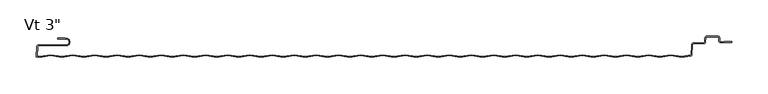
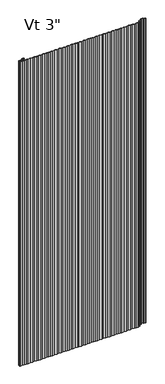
"""IFC4 building model written with IfcOpenShell, lengths in millimetres: plate geometry."""

from ifc_helpers import new_model, si_unit, point, frame, origin, place, context, project, spatial, polyline, circle_curve, ellipse_curve, trimmed, source, transform, mapped, element, save
from ifc_brep_helpers import plane_surface, cylinder_surface, revolved_surface, extruded_surface, advanced_brep


def plate_d0f07226(model_context):
    return source(origin(), model_context, "Body", "AdvancedBrep", [
        advanced_brep(
        [(-480.4252049, -50.8, 2400.0), (-480.4252049, -52.3875, 2400.0), (-469.1142674, -52.3875, 2400.0), (-469.1142674, -60.325, 2400.0), (-507.2975721, -60.325, 2400.0), (-509.6755586, -62.581625, 2400.0), (-510.41832, -76.7543553, 2400.0), (-506.0646686, -77.4509395, 2400.0), (-490.8246686, -75.0125395, 2400.0), (-475.5846686, -77.4509395, 2400.0), (-460.3446686, -75.0125395, 2400.0), (-445.1046686, -77.4509395, 2400.0), (-429.8646686, -75.0125395, 2400.0), (-414.6246686, -77.4509395, 2400.0), (-399.3846686, -75.0125395, 2400.0), (-384.1446686, -77.4509395, 2400.0), (-368.9046686, -75.0125395, 2400.0), (-353.6646686, -77.4509395, 2400.0), (-338.4246686, -75.0125395, 2400.0), (-323.1846686, -77.4509395, 2400.0), (-307.9446686, -75.0125395, 2400.0), (-292.7046686, -77.4509395, 2400.0), (-277.4646686, -75.0125395, 2400.0), (-262.2246686, -77.4509395, 2400.0), (-246.9846686, -75.0125395, 2400.0), (-231.7446686, -77.4509395, 2400.0), (-216.5046686, -75.0125395, 2400.0), (-201.2646686, -77.4509395, 2400.0), (-186.0246686, -75.0125395, 2400.0), (-170.7846686, -77.4509395, 2400.0), (-155.5446686, -75.0125395, 2400.0), (-140.3046686, -77.4509395, 2400.0), (-125.0646686, -75.0125395, 2400.0), (-109.8246686, -77.4509395, 2400.0), (-94.5846686, -75.0125395, 2400.0), (-79.3446686, -77.4509395, 2400.0), (-64.1046686, -75.0125395, 2400.0), (-48.8646686, -77.4509395, 2400.0), (-33.6246686, -75.0125395, 2400.0), (-18.3846686, -77.4509395, 2400.0), (-3.1446686, -75.0125395, 2400.0), (12.0953314, -77.4509395, 2400.0), (27.3353314, -75.0125395, 2400.0), (42.5753314, -77.4509395, 2400.0), (57.8153314, -75.0125395, 2400.0), (73.0553314, -77.4509395, 2400.0), (88.2953314, -75.0125395, 2400.0), (103.5353314, -77.4509395, 2400.0), (118.7753314, -75.0125395, 2400.0), (134.0153314, -77.4509395, 2400.0), (149.2553314, -75.0125395, 2400.0), (164.4953314, -77.4509395, 2400.0), (179.7353314, -75.0125395, 2400.0), (194.9753314, -77.4509395, 2400.0), (210.2153314, -75.0125395, 2400.0), (225.4553314, -77.4509395, 2400.0), (240.6953314, -75.0125395, 2400.0), (255.9353314, -77.4509395, 2400.0), (271.1753314, -75.0125395, 2400.0), (286.4153314, -77.4509395, 2400.0), (301.6553314, -75.0125395, 2400.0), (316.8953314, -77.4509395, 2400.0), (332.1353314, -75.0125395, 2400.0), (347.3753314, -77.4509395, 2400.0), (362.6153314, -75.0125395, 2400.0), (377.6527639, -77.4185287, 2400.0), (390.0944828, -75.4278537, 2400.0), (391.4289973, -73.943375, 2400.0), (392.1470603, -60.2419167, 2400.0), (393.7323847, -58.7375, 2400.0), (407.8886911, -58.7375, 2400.0), (410.2666776, -56.480875, 2400.0), (410.5687539, -50.7169167, 2400.0), (412.1540783, -49.2125, 2400.0), (427.0294826, -49.2125, 2400.0), (428.6169826, -50.8, 2400.0), (428.6169826, -54.9671875, 2400.0), (430.9982326, -57.3484375, 2400.0), (445.4898532, -57.3484375, 2400.0), (445.4898532, -55.5546875, 2400.0), (435.7607326, -55.5546875, 2400.0), (435.7607326, -56.3484375, 2400.0), (430.9982326, -56.3484375, 2400.0), (429.6169826, -54.9671875, 2400.0), (429.6169826, -50.8, 2400.0), (427.0294826, -48.2125, 2400.0), (412.1540783, -48.2125, 2400.0), (409.5701244, -50.6645807, 2400.0), (409.2680481, -56.428539, 2400.0), (407.8886911, -57.7375, 2400.0), (393.7323847, -57.7375, 2400.0), (391.1484307, -60.1895807, 2400.0), (390.4303677, -73.891039, 2400.0), (389.9364923, -74.440413, 2400.0), (377.6527639, -76.4058096, 2400.0), (362.6153314, -73.9998204, 2400.0), (347.3753314, -76.4382204, 2400.0), (332.1353314, -73.9998204, 2400.0), (316.8953314, -76.4382204, 2400.0), (301.6553314, -73.9998204, 2400.0), (286.4153314, -76.4382204, 2400.0), (271.1753314, -73.9998204, 2400.0), (255.9353314, -76.4382204, 2400.0), (240.6953314, -73.9998204, 2400.0), (225.4553314, -76.4382204, 2400.0), (210.2153314, -73.9998204, 2400.0), (194.9753314, -76.4382204, 2400.0), (179.7353314, -73.9998204, 2400.0), (164.4953314, -76.4382204, 2400.0), (149.2553314, -73.9998204, 2400.0), (134.0153314, -76.4382204, 2400.0), (118.7753314, -73.9998204, 2400.0), (103.5353314, -76.4382204, 2400.0), (88.2953314, -73.9998204, 2400.0), (73.0553314, -76.4382204, 2400.0), (57.8153314, -73.9998204, 2400.0), (42.5753314, -76.4382204, 2400.0), (27.3353314, -73.9998204, 2400.0), (12.0953314, -76.4382204, 2400.0), (-3.1446686, -73.9998204, 2400.0), (-18.3846686, -76.4382204, 2400.0), (-33.6246686, -73.9998204, 2400.0), (-48.8646686, -76.4382204, 2400.0), (-64.1046686, -73.9998204, 2400.0), (-79.3446686, -76.4382204, 2400.0), (-94.5846686, -73.9998204, 2400.0), (-109.8246686, -76.4382204, 2400.0), (-125.0646686, -73.9998204, 2400.0), (-140.3046686, -76.4382204, 2400.0), (-155.5446686, -73.9998204, 2400.0), (-170.7846686, -76.4382204, 2400.0), (-186.0246686, -73.9998204, 2400.0), (-201.2646686, -76.4382204, 2400.0), (-216.5046686, -73.9998204, 2400.0), (-231.7446686, -76.4382204, 2400.0), (-246.9846686, -73.9998204, 2400.0), (-262.2246686, -76.4382204, 2400.0), (-277.4646686, -73.9998204, 2400.0), (-292.7046686, -76.4382204, 2400.0), (-307.9446686, -73.9998204, 2400.0), (-323.1846686, -76.4382204, 2400.0), (-338.4246686, -73.9998204, 2400.0), (-353.6646686, -76.4382204, 2400.0), (-368.9046686, -73.9998204, 2400.0), (-384.1446686, -76.4382204, 2400.0), (-399.3846686, -73.9998204, 2400.0), (-414.6246686, -76.4382204, 2400.0), (-429.8646686, -73.9998204, 2400.0), (-445.1046686, -76.4382204, 2400.0), (-460.3446686, -73.9998204, 2400.0), (-475.5846686, -76.4382204, 2400.0), (-490.8246686, -73.9998204, 2400.0), (-506.0646686, -76.4382204, 2400.0), (-509.3726415, -75.9089447, 2400.0), (-508.6769291, -62.633961, 2400.0), (-507.2975721, -61.325, 2400.0), (-469.1142674, -61.325, 2400.0), (-469.1142674, -51.3875, 2400.0), (-470.7017674, -51.59375, 2400.0), (-470.7017674, -50.8, 2400.0), (-480.4252049, -50.8, 0.0), (-470.7017674, -50.8, 0.0), (-470.7017674, -51.59375, 0.0), (-469.1142674, -51.3875, 0.0), (-469.1142674, -61.325, 0.0), (-507.2975721, -61.325, 0.0), (-508.6769291, -62.633961, 0.0), (-509.3726415, -75.9089447, 0.0), (-506.0646686, -76.4382204, 0.0), (-490.8246686, -73.9998204, 0.0), (-475.5846686, -76.4382204, 0.0), (-460.3446686, -73.9998204, 0.0), (-445.1046686, -76.4382204, 0.0), (-429.8646686, -73.9998204, 0.0), (-414.6246686, -76.4382204, 0.0), (-399.3846686, -73.9998204, 0.0), (-384.1446686, -76.4382204, 0.0), (-368.9046686, -73.9998204, 0.0), (-353.6646686, -76.4382204, 0.0), (-338.4246686, -73.9998204, 0.0), (-323.1846686, -76.4382204, 0.0), (-307.9446686, -73.9998204, 0.0), (-292.7046686, -76.4382204, 0.0), (-277.4646686, -73.9998204, 0.0), (-262.2246686, -76.4382204, 0.0), (-246.9846686, -73.9998204, 0.0), (-231.7446686, -76.4382204, 0.0), (-216.5046686, -73.9998204, 0.0), (-201.2646686, -76.4382204, 0.0), (-186.0246686, -73.9998204, 0.0), (-170.7846686, -76.4382204, 0.0), (-155.5446686, -73.9998204, 0.0), (-140.3046686, -76.4382204, 0.0), (-125.0646686, -73.9998204, 0.0), (-109.8246686, -76.4382204, 0.0), (-94.5846686, -73.9998204, 0.0), (-79.3446686, -76.4382204, 0.0), (-64.1046686, -73.9998204, 0.0), (-48.8646686, -76.4382204, 0.0), (-33.6246686, -73.9998204, 0.0), (-18.3846686, -76.4382204, 0.0), (-3.1446686, -73.9998204, 0.0), (12.0953314, -76.4382204, 0.0), (27.3353314, -73.9998204, 0.0), (42.5753314, -76.4382204, 0.0), (57.8153314, -73.9998204, 0.0), (73.0553314, -76.4382204, 0.0), (88.2953314, -73.9998204, 0.0), (103.5353314, -76.4382204, 0.0), (118.7753314, -73.9998204, 0.0), (134.0153314, -76.4382204, 0.0), (149.2553314, -73.9998204, 0.0), (164.4953314, -76.4382204, 0.0), (179.7353314, -73.9998204, 0.0), (194.9753314, -76.4382204, 0.0), (210.2153314, -73.9998204, 0.0), (225.4553314, -76.4382204, 0.0), (240.6953314, -73.9998204, 0.0), (255.9353314, -76.4382204, 0.0), (271.1753314, -73.9998204, 0.0), (286.4153314, -76.4382204, 0.0), (301.6553314, -73.9998204, 0.0), (316.8953314, -76.4382204, 0.0), (332.1353314, -73.9998204, 0.0), (347.3753314, -76.4382204, 0.0), (362.6153314, -73.9998204, 0.0), (377.6527639, -76.4058096, 0.0), (389.9364923, -74.440413, 0.0), (390.4303677, -73.891039, 0.0), (391.1484307, -60.1895807, 0.0), (393.7323847, -57.7375, 0.0), (407.8886911, -57.7375, 0.0), (409.2680481, -56.428539, 0.0), (409.5701244, -50.6645807, 0.0), (412.1540783, -48.2125, 0.0), (427.0294826, -48.2125, 0.0), (429.6169826, -50.8, 0.0), (429.6169826, -54.9671875, 0.0), (430.9982326, -56.3484375, 0.0), (435.7607326, -56.3484375, 0.0), (435.7607326, -55.5546875, 0.0), (445.4898532, -55.5546875, 0.0), (445.4898532, -57.3484375, 0.0), (430.9982326, -57.3484375, 0.0), (428.6169826, -54.9671875, 0.0), (428.6169826, -50.8, 0.0), (427.0294826, -49.2125, 0.0), (412.1540783, -49.2125, 0.0), (410.5687539, -50.7169167, 0.0), (410.2666776, -56.480875, 0.0), (407.8886911, -58.7375, 0.0), (393.7323847, -58.7375, 0.0), (392.1470603, -60.2419167, 0.0), (391.4289973, -73.943375, 0.0), (390.0944828, -75.4278537, 0.0), (377.6527639, -77.4185287, 0.0), (362.6153314, -75.0125395, 0.0), (347.3753314, -77.4509395, 0.0), (332.1353314, -75.0125395, 0.0), (316.8953314, -77.4509395, 0.0), (301.6553314, -75.0125395, 0.0), (286.4153314, -77.4509395, 0.0), (271.1753314, -75.0125395, 0.0), (255.9353314, -77.4509395, 0.0), (240.6953314, -75.0125395, 0.0), (225.4553314, -77.4509395, 0.0), (210.2153314, -75.0125395, 0.0), (194.9753314, -77.4509395, 0.0), (179.7353314, -75.0125395, 0.0), (164.4953314, -77.4509395, 0.0), (149.2553314, -75.0125395, 0.0), (134.0153314, -77.4509395, 0.0), (118.7753314, -75.0125395, 0.0), (103.5353314, -77.4509395, 0.0), (88.2953314, -75.0125395, 0.0), (73.0553314, -77.4509395, 0.0), (57.8153314, -75.0125395, 0.0), (42.5753314, -77.4509395, 0.0), (27.3353314, -75.0125395, 0.0), (12.0953314, -77.4509395, 0.0), (-3.1446686, -75.0125395, 0.0), (-18.3846686, -77.4509395, 0.0), (-33.6246686, -75.0125395, 0.0), (-48.8646686, -77.4509395, 0.0), (-64.1046686, -75.0125395, 0.0), (-79.3446686, -77.4509395, 0.0), (-94.5846686, -75.0125395, 0.0), (-109.8246686, -77.4509395, 0.0), (-125.0646686, -75.0125395, 0.0), (-140.3046686, -77.4509395, 0.0), (-155.5446686, -75.0125395, 0.0), (-170.7846686, -77.4509395, 0.0), (-186.0246686, -75.0125395, 0.0), (-201.2646686, -77.4509395, 0.0), (-216.5046686, -75.0125395, 0.0), (-231.7446686, -77.4509395, 0.0), (-246.9846686, -75.0125395, 0.0), (-262.2246686, -77.4509395, 0.0), (-277.4646686, -75.0125395, 0.0), (-292.7046686, -77.4509395, 0.0), (-307.9446686, -75.0125395, 0.0), (-323.1846686, -77.4509395, 0.0), (-338.4246686, -75.0125395, 0.0), (-353.6646686, -77.4509395, 0.0), (-368.9046686, -75.0125395, 0.0), (-384.1446686, -77.4509395, 0.0), (-399.3846686, -75.0125395, 0.0), (-414.6246686, -77.4509395, 0.0), (-429.8646686, -75.0125395, 0.0), (-445.1046686, -77.4509395, 0.0), (-460.3446686, -75.0125395, 0.0), (-475.5846686, -77.4509395, 0.0), (-490.8246686, -75.0125395, 0.0), (-506.0646686, -77.4509395, 0.0), (-510.41832, -76.7543553, 0.0), (-509.6755586, -62.581625, 0.0), (-507.2975721, -60.325, 0.0), (-469.1142674, -60.325, 0.0), (-469.1142674, -52.3875, 0.0), (-480.4252049, -52.3875, 0.0)],
        [
            (0, 1, circle_curve(frame((-480.4252049, -51.59375, 2400.0), z_axis=(0.0, 0.0, 1.0), x_axis=(1.0, 0.0, 0.0)), 0.79375)),
            (1, 2),
            (2, 3, circle_curve(frame((-469.1142674, -56.35625, 2400.0), z_axis=(0.0, 0.0, -1.0), x_axis=(1.0, 0.0, 0.0)), 3.96875)),
            (3, 4),
            (4, 5, circle_curve(frame((-507.2975721, -62.70625, 2400.0), z_axis=(0.0, 0.0, 1.0), x_axis=(1.0, 0.0, 0.0)), 2.38125)),
            (5, 6),
            (6, 7),
            (7, 8),
            (8, 9),
            (9, 10),
            (10, 11),
            (11, 12),
            (12, 13),
            (13, 14),
            (14, 15),
            (15, 16),
            (16, 17),
            (17, 18),
            (18, 19),
            (19, 20),
            (20, 21),
            (21, 22),
            (22, 23),
            (23, 24),
            (24, 25),
            (25, 26),
            (26, 27),
            (27, 28),
            (28, 29),
            (29, 30),
            (30, 31),
            (31, 32),
            (32, 33),
            (33, 34),
            (34, 35),
            (35, 36),
            (36, 37),
            (37, 38),
            (38, 39),
            (39, 40),
            (40, 41),
            (41, 42),
            (42, 43),
            (43, 44),
            (44, 45),
            (45, 46),
            (46, 47),
            (47, 48),
            (48, 49),
            (49, 50),
            (50, 51),
            (51, 52),
            (52, 53),
            (53, 54),
            (54, 55),
            (55, 56),
            (56, 57),
            (57, 58),
            (58, 59),
            (59, 60),
            (60, 61),
            (61, 62),
            (62, 63),
            (63, 64),
            (64, 65),
            (65, 66),
            (66, 67, circle_curve(frame((389.8436729, -73.8602917, 2400.0), z_axis=(0.0, 0.0, 1.0), x_axis=(1.0, 0.0, 0.0)), 1.5875)),
            (67, 68),
            (68, 69, circle_curve(frame((393.7323847, -60.325, 2400.0), z_axis=(0.0, 0.0, -1.0), x_axis=(1.0, 0.0, 0.0)), 1.5875)),
            (69, 70),
            (70, 71, circle_curve(frame((407.8886911, -56.35625, 2400.0), z_axis=(0.0, 0.0, 1.0), x_axis=(1.0, 0.0, 0.0)), 2.38125)),
            (71, 72),
            (72, 73, circle_curve(frame((412.1540783, -50.8, 2400.0), z_axis=(0.0, 0.0, -1.0), x_axis=(1.0, 0.0, 0.0)), 1.5875)),
            (73, 74),
            (74, 75, circle_curve(frame((427.0294826, -50.8, 2400.0), z_axis=(0.0, 0.0, -1.0), x_axis=(1.0, 0.0, 0.0)), 1.5875)),
            (75, 76),
            (76, 77, circle_curve(frame((430.9982326, -54.9671875, 2400.0), z_axis=(0.0, 0.0, 1.0), x_axis=(1.0, 0.0, 0.0)), 2.38125)),
            (77, 78),
            (78, 79, ellipse_curve(frame((445.4898532, -56.4515625, 2400.0), z_axis=(0.0, 0.0, 1.0), x_axis=(0.0, 1.0, 0.0)), 0.896875, 0.7852275)),
            (79, 80),
            (80, 81),
            (81, 82),
            (82, 83, circle_curve(frame((430.9982326, -54.9671875, 2400.0), z_axis=(0.0, 0.0, -1.0), x_axis=(1.0, 0.0, 0.0)), 1.38125)),
            (83, 84),
            (84, 85, circle_curve(frame((427.0294826, -50.8, 2400.0), z_axis=(0.0, 0.0, 1.0), x_axis=(1.0, 0.0, 0.0)), 2.5875)),
            (85, 86),
            (86, 87, circle_curve(frame((412.1540783, -50.8, 2400.0), z_axis=(0.0, 0.0, 1.0), x_axis=(1.0, 0.0, 0.0)), 2.5875)),
            (87, 88),
            (88, 89, circle_curve(frame((407.8886911, -56.35625, 2400.0), z_axis=(0.0, 0.0, -1.0), x_axis=(1.0, 0.0, 0.0)), 1.38125)),
            (89, 90),
            (90, 91, circle_curve(frame((393.7323847, -60.325, 2400.0), z_axis=(0.0, 0.0, 1.0), x_axis=(1.0, 0.0, 0.0)), 2.5875)),
            (91, 92),
            (92, 93, circle_curve(frame((389.8436729, -73.8602917, 2400.0), z_axis=(0.0, 0.0, -1.0), x_axis=(1.0, 0.0, 0.0)), 0.5875)),
            (93, 94),
            (94, 95),
            (95, 96),
            (96, 97),
            (97, 98),
            (98, 99),
            (99, 100),
            (100, 101),
            (101, 102),
            (102, 103),
            (103, 104),
            (104, 105),
            (105, 106),
            (106, 107),
            (107, 108),
            (108, 109),
            (109, 110),
            (110, 111),
            (111, 112),
            (112, 113),
            (113, 114),
            (114, 115),
            (115, 116),
            (116, 117),
            (117, 118),
            (118, 119),
            (119, 120),
            (120, 121),
            (121, 122),
            (122, 123),
            (123, 124),
            (124, 125),
            (125, 126),
            (126, 127),
            (127, 128),
            (128, 129),
            (129, 130),
            (130, 131),
            (131, 132),
            (132, 133),
            (133, 134),
            (134, 135),
            (135, 136),
            (136, 137),
            (137, 138),
            (138, 139),
            (139, 140),
            (140, 141),
            (141, 142),
            (142, 143),
            (143, 144),
            (144, 145),
            (145, 146),
            (146, 147),
            (147, 148),
            (148, 149),
            (149, 150),
            (150, 151),
            (151, 152),
            (152, 153),
            (153, 154),
            (154, 155, circle_curve(frame((-507.2975721, -62.70625, 2400.0), z_axis=(0.0, 0.0, -1.0), x_axis=(1.0, 0.0, 0.0)), 1.38125)),
            (155, 156),
            (156, 157, circle_curve(frame((-469.1142674, -56.35625, 2400.0), z_axis=(0.0, 0.0, 1.0), x_axis=(1.0, 0.0, 0.0)), 4.96875)),
            (157, 158),
            (158, 159),
            (159, 0),
            (160, 161),
            (161, 162),
            (162, 163),
            (163, 164, circle_curve(frame((-469.1142674, -56.35625, 0.0), z_axis=(0.0, 0.0, -1.0), x_axis=(1.0, 0.0, 0.0)), 4.96875)),
            (164, 165),
            (165, 166, circle_curve(frame((-507.2975721, -62.70625, 0.0), z_axis=(0.0, 0.0, 1.0), x_axis=(1.0, 0.0, 0.0)), 1.38125)),
            (166, 167),
            (167, 168),
            (168, 169),
            (169, 170),
            (170, 171),
            (171, 172),
            (172, 173),
            (173, 174),
            (174, 175),
            (175, 176),
            (176, 177),
            (177, 178),
            (178, 179),
            (179, 180),
            (180, 181),
            (181, 182),
            (182, 183),
            (183, 184),
            (184, 185),
            (185, 186),
            (186, 187),
            (187, 188),
            (188, 189),
            (189, 190),
            (190, 191),
            (191, 192),
            (192, 193),
            (193, 194),
            (194, 195),
            (195, 196),
            (196, 197),
            (197, 198),
            (198, 199),
            (199, 200),
            (200, 201),
            (201, 202),
            (202, 203),
            (203, 204),
            (204, 205),
            (205, 206),
            (206, 207),
            (207, 208),
            (208, 209),
            (209, 210),
            (210, 211),
            (211, 212),
            (212, 213),
            (213, 214),
            (214, 215),
            (215, 216),
            (216, 217),
            (217, 218),
            (218, 219),
            (219, 220),
            (220, 221),
            (221, 222),
            (222, 223),
            (223, 224),
            (224, 225),
            (225, 226),
            (226, 227),
            (227, 228, circle_curve(frame((389.8436729, -73.8602917, 0.0), z_axis=(0.0, 0.0, 1.0), x_axis=(1.0, 0.0, 0.0)), 0.5875)),
            (228, 229),
            (229, 230, circle_curve(frame((393.7323847, -60.325, 0.0), z_axis=(0.0, 0.0, -1.0), x_axis=(1.0, 0.0, 0.0)), 2.5875)),
            (230, 231),
            (231, 232, circle_curve(frame((407.8886911, -56.35625, 0.0), z_axis=(0.0, 0.0, 1.0), x_axis=(1.0, 0.0, 0.0)), 1.38125)),
            (232, 233),
            (233, 234, circle_curve(frame((412.1540783, -50.8, 0.0), z_axis=(0.0, 0.0, -1.0), x_axis=(1.0, 0.0, 0.0)), 2.5875)),
            (234, 235),
            (235, 236, circle_curve(frame((427.0294826, -50.8, 0.0), z_axis=(0.0, 0.0, -1.0), x_axis=(1.0, 0.0, 0.0)), 2.5875)),
            (236, 237),
            (237, 238, circle_curve(frame((430.9982326, -54.9671875, 0.0), z_axis=(0.0, 0.0, 1.0), x_axis=(1.0, 0.0, 0.0)), 1.38125)),
            (238, 239),
            (239, 240),
            (240, 241),
            (241, 242, ellipse_curve(frame((445.4898532, -56.4515625, 0.0), z_axis=(0.0, 0.0, -1.0), x_axis=(0.0, 1.0, 0.0)), 0.896875, 0.7852275)),
            (242, 243),
            (243, 244, circle_curve(frame((430.9982326, -54.9671875, 0.0), z_axis=(0.0, 0.0, -1.0), x_axis=(1.0, 0.0, 0.0)), 2.38125)),
            (244, 245),
            (245, 246, circle_curve(frame((427.0294826, -50.8, 0.0), z_axis=(0.0, 0.0, 1.0), x_axis=(1.0, 0.0, 0.0)), 1.5875)),
            (246, 247),
            (247, 248, circle_curve(frame((412.1540783, -50.8, 0.0), z_axis=(0.0, 0.0, 1.0), x_axis=(1.0, 0.0, 0.0)), 1.5875)),
            (248, 249),
            (249, 250, circle_curve(frame((407.8886911, -56.35625, 0.0), z_axis=(0.0, 0.0, -1.0), x_axis=(1.0, 0.0, 0.0)), 2.38125)),
            (250, 251),
            (251, 252, circle_curve(frame((393.7323847, -60.325, 0.0), z_axis=(0.0, 0.0, 1.0), x_axis=(1.0, 0.0, 0.0)), 1.5875)),
            (252, 253),
            (253, 254, circle_curve(frame((389.8436729, -73.8602917, 0.0), z_axis=(0.0, 0.0, -1.0), x_axis=(1.0, 0.0, 0.0)), 1.5875)),
            (254, 255),
            (255, 256),
            (256, 257),
            (257, 258),
            (258, 259),
            (259, 260),
            (260, 261),
            (261, 262),
            (262, 263),
            (263, 264),
            (264, 265),
            (265, 266),
            (266, 267),
            (267, 268),
            (268, 269),
            (269, 270),
            (270, 271),
            (271, 272),
            (272, 273),
            (273, 274),
            (274, 275),
            (275, 276),
            (276, 277),
            (277, 278),
            (278, 279),
            (279, 280),
            (280, 281),
            (281, 282),
            (282, 283),
            (283, 284),
            (284, 285),
            (285, 286),
            (286, 287),
            (287, 288),
            (288, 289),
            (289, 290),
            (290, 291),
            (291, 292),
            (292, 293),
            (293, 294),
            (294, 295),
            (295, 296),
            (296, 297),
            (297, 298),
            (298, 299),
            (299, 300),
            (300, 301),
            (301, 302),
            (302, 303),
            (303, 304),
            (304, 305),
            (305, 306),
            (306, 307),
            (307, 308),
            (308, 309),
            (309, 310),
            (310, 311),
            (311, 312),
            (312, 313),
            (313, 314),
            (314, 315),
            (315, 316, circle_curve(frame((-507.2975721, -62.70625, 0.0), z_axis=(0.0, 0.0, -1.0), x_axis=(1.0, 0.0, 0.0)), 2.38125)),
            (316, 317),
            (317, 318, circle_curve(frame((-469.1142674, -56.35625, 0.0), z_axis=(0.0, 0.0, 1.0), x_axis=(1.0, 0.0, 0.0)), 3.96875)),
            (318, 319),
            (319, 160, circle_curve(frame((-480.4252049, -51.59375, 0.0), z_axis=(0.0, 0.0, -1.0), x_axis=(1.0, 0.0, 0.0)), 0.79375)),
            (159, 161),
            (160, 0),
            (319, 1),
            (318, 2),
            (317, 3),
            (316, 4),
            (315, 5),
            (314, 6),
            (68, 252),
            (251, 69),
            (250, 70),
            (249, 71),
            (248, 72),
            (247, 73),
            (154, 166),
            (165, 155),
            (90, 230),
            (229, 91),
            (89, 231),
            (88, 232),
            (87, 233),
            (86, 234),
            (81, 239),
            (238, 82),
            (237, 83),
            (236, 84),
            (246, 74),
            (245, 75),
            (244, 76),
            (243, 77),
            (242, 78),
            (85, 235),
            (164, 156),
            (163, 157),
            (158, 162),
            (80, 240),
            (79, 241),
            (95, 225),
            (224, 96),
            (223, 97),
            (222, 98),
            (221, 99),
            (220, 100),
            (219, 101),
            (218, 102),
            (217, 103),
            (216, 104),
            (215, 105),
            (214, 106),
            (213, 107),
            (212, 108),
            (211, 109),
            (147, 173),
            (172, 148),
            (171, 149),
            (170, 150),
            (169, 151),
            (168, 152),
            (167, 153),
            (313, 7),
            (312, 8),
            (311, 9),
            (310, 10),
            (309, 11),
            (308, 12),
            (36, 284),
            (283, 37),
            (282, 38),
            (50, 270),
            (269, 51),
            (268, 52),
            (267, 53),
            (266, 54),
            (265, 55),
            (264, 56),
            (263, 57),
            (262, 58),
            (261, 59),
            (260, 60),
            (259, 61),
            (258, 62),
            (257, 63),
            (256, 64),
            (65, 255),
            (254, 66),
            (253, 67),
            (92, 228),
            (227, 93),
            (226, 94),
            (123, 197),
            (196, 124),
            (195, 125),
            (194, 126),
            (49, 271),
            (48, 272),
            (47, 273),
            (46, 274),
            (45, 275),
            (44, 276),
            (43, 277),
            (42, 278),
            (41, 279),
            (40, 280),
            (39, 281),
            (122, 198),
            (121, 199),
            (120, 200),
            (119, 201),
            (118, 202),
            (117, 203),
            (116, 204),
            (115, 205),
            (114, 206),
            (113, 207),
            (112, 208),
            (111, 209),
            (110, 210),
            (135, 185),
            (184, 136),
            (183, 137),
            (193, 127),
            (192, 128),
            (191, 129),
            (130, 190),
            (189, 131),
            (188, 132),
            (133, 187),
            (186, 134),
            (22, 298),
            (297, 23),
            (24, 296),
            (295, 25),
            (294, 26),
            (293, 27),
            (292, 28),
            (291, 29),
            (290, 30),
            (289, 31),
            (288, 32),
            (287, 33),
            (286, 34),
            (285, 35),
            (182, 138),
            (181, 139),
            (180, 140),
            (179, 141),
            (178, 142),
            (177, 143),
            (16, 304),
            (303, 17),
            (302, 18),
            (301, 19),
            (300, 20),
            (299, 21),
            (176, 144),
            (175, 145),
            (174, 146),
            (307, 13),
            (306, 14),
            (305, 15),
        ],
        [
            plane_surface(frame((0.00625, -76.2, 2400.0), z_axis=(0.0, 0.0, 1.0), x_axis=(0.0, -1.0, 0.0))),
            plane_surface(frame((0.00625, -76.2, 0.0), z_axis=(0.0, 0.0, -1.0), x_axis=(0.0, -1.0, 0.0))),
            plane_surface(frame((-480.4252049, -50.8, 2400.0), z_axis=(0.0, 1.0, 0.0), x_axis=(0.0, 0.0, -1.0))),
            cylinder_surface(frame((-480.4252049, -51.59375, 2400.0), z_axis=(0.0, 0.0, 1.0), x_axis=(1.0, 0.0, 0.0)), 0.79375),
            plane_surface(frame((-469.1142674, -52.3875, 2400.0), z_axis=(0.0, -1.0, 0.0), x_axis=(0.0, 0.0, -1.0))),
            revolved_surface(polyline([(-465.1455174, -56.35625, 0.0), (-465.1455174, -56.35625, 2400.0)]), (-469.1142674, -56.35625, 2400.0), (0.0, 0.0, -1.0)),
            plane_surface(frame((-507.2975721, -60.325, 2400.0), z_axis=(0.0, 1.0, 0.0), x_axis=(0.0, 0.0, -1.0))),
            cylinder_surface(frame((-507.2975721, -62.70625, 2400.0), z_axis=(0.0, 0.0, 1.0), x_axis=(1.0, 0.0, 0.0)), 2.38125),
            plane_surface(frame((-510.41832, -76.7543553, 2400.0), z_axis=(-0.9986295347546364, 0.05233595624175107, 0.0), x_axis=(0.0, 0.0, -1.0))),
            revolved_surface(polyline([(395.3198847, -60.325, 0.0), (395.3198847, -60.325, 2400.0)]), (393.7323847, -60.325, 2400.0), (0.0, 0.0, -1.0)),
            plane_surface(frame((407.8886911, -58.7375, 2400.0), z_axis=(0.0, -1.0, 0.0), x_axis=(0.0, 0.0, -1.0))),
            cylinder_surface(frame((407.8886911, -56.35625, 2400.0), z_axis=(0.0, 0.0, 1.0), x_axis=(1.0, 0.0, 0.0)), 2.38125),
            plane_surface(frame((410.5687539, -50.7169167, 2400.0), z_axis=(0.9986295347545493, -0.052335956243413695, 0.0), x_axis=(0.0, 0.0, -1.0))),
            revolved_surface(polyline([(413.74157829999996, -50.8, 0.0), (413.74157829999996, -50.8, 2400.0)]), (412.1540783, -50.8, 2400.0), (0.0, 0.0, -1.0)),
            revolved_surface(polyline([(-505.9163221, -62.70625, 0.0), (-505.9163221, -62.70625, 2400.0)]), (-507.2975721, -62.70625, 2400.0), (0.0, 0.0, -1.0)),
            cylinder_surface(frame((393.7323847, -60.325, 2400.0), z_axis=(0.0, 0.0, 1.0), x_axis=(1.0, 0.0, 0.0)), 2.5875),
            plane_surface(frame((393.7323847, -57.7375, 2400.0), z_axis=(0.0, 1.0, 0.0), x_axis=(0.0, 0.0, -1.0))),
            revolved_surface(polyline([(409.26994110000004, -56.35625, 0.0), (409.26994110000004, -56.35625, 2400.0)]), (407.8886911, -56.35625, 2400.0), (0.0, 0.0, -1.0)),
            plane_surface(frame((409.2680481, -56.428539, 2400.0), z_axis=(-0.998629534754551, 0.05233595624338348, 0.0), x_axis=(0.0, 0.0, -1.0))),
            cylinder_surface(frame((412.1540783, -50.8, 2400.0), z_axis=(0.0, 0.0, 1.0), x_axis=(1.0, 0.0, 0.0)), 2.5875),
            plane_surface(frame((430.9982326, -56.3484375, 2400.0), z_axis=(0.0, 1.0, 0.0), x_axis=(0.0, 0.0, -1.0))),
            revolved_surface(polyline([(432.3794826, -54.9671875, 0.0), (432.3794826, -54.9671875, 2400.0)]), (430.9982326, -54.9671875, 2400.0), (0.0, 0.0, -1.0)),
            plane_surface(frame((429.6169826, -50.8, 2400.0), z_axis=(1.0, 0.0, 0.0), x_axis=(0.0, 0.0, -1.0))),
            plane_surface(frame((427.0294826, -49.2125, 2400.0), z_axis=(0.0, -1.0, 0.0), x_axis=(0.0, 0.0, -1.0))),
            revolved_surface(polyline([(428.6169826, -50.8, 0.0), (428.6169826, -50.8, 2400.0)]), (427.0294826, -50.8, 2400.0), (0.0, 0.0, -1.0)),
            plane_surface(frame((428.6169826, -54.9671875, 2400.0), z_axis=(-1.0, 0.0, 0.0), x_axis=(0.0, 0.0, -1.0))),
            cylinder_surface(frame((430.9982326, -54.9671875, 2400.0), z_axis=(0.0, 0.0, 1.0), x_axis=(1.0, 0.0, 0.0)), 2.38125),
            plane_surface(frame((445.4898532, -57.3484375, 2400.0), z_axis=(0.0, -1.0, 0.0), x_axis=(0.0, 0.0, -1.0))),
            plane_surface(frame((412.1540783, -48.2125, 2400.0), z_axis=(0.0, 1.0, 0.0), x_axis=(0.0, 0.0, -1.0))),
            cylinder_surface(frame((427.0294826, -50.8, 2400.0), z_axis=(0.0, 0.0, 1.0), x_axis=(1.0, 0.0, 0.0)), 2.5875),
            plane_surface(frame((-469.1142674, -61.325, 2400.0), z_axis=(0.0, -1.0, 0.0), x_axis=(0.0, 0.0, -1.0))),
            cylinder_surface(frame((-469.1142674, -56.35625, 2400.0), z_axis=(0.0, 0.0, 1.0), x_axis=(1.0, 0.0, 0.0)), 4.96875),
            plane_surface(frame((-470.7017674, -50.8, 2400.0), z_axis=(1.0, 0.0, 0.0), x_axis=(0.0, 0.0, -1.0))),
            plane_surface(frame((-470.7017674, -51.59375, 2400.0), z_axis=(-0.12883844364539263, 0.9916655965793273, 0.0), x_axis=(0.0, 0.0, -1.0))),
            plane_surface(frame((435.7607326, -56.3484375, 2400.0), z_axis=(-1.0, 0.0, 0.0), x_axis=(0.0, 0.0, -1.0))),
            plane_surface(frame((435.7607326, -55.5546875, 2400.0), z_axis=(0.0, 1.0, 0.0), x_axis=(0.0, 0.0, -1.0))),
            extruded_surface(trimmed(ellipse_curve(frame((445.4898532, -56.4515625, 2400.0), z_axis=(0.0, 0.0, -1.0), x_axis=(0.0, 1.0, 0.0)), 0.896875, 0.7852275), [point((445.4898532, -55.5546875, 2400.0))], [point((445.4898532, -57.3484375, 2400.0))], True, "CARTESIAN"), (0.0, 0.0, -2400.0), 2400.0),
            plane_surface(frame((347.3753314, -76.4382204, 2400.0), z_axis=(-0.15799050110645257, 0.9874406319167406, 0.0), x_axis=(0.0, 0.0, -1.0))),
            plane_surface(frame((332.1353314, -73.9998204, 2400.0), z_axis=(0.157990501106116, 0.9874406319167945, 0.0), x_axis=(0.0, 0.0, -1.0))),
            plane_surface(frame((316.8953314, -76.4382204, 2400.0), z_axis=(-0.15799050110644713, 0.9874406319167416, 0.0), x_axis=(0.0, 0.0, -1.0))),
            plane_surface(frame((301.6553314, -73.9998204, 2400.0), z_axis=(0.157990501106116, 0.9874406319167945, 0.0), x_axis=(0.0, 0.0, -1.0))),
            plane_surface(frame((286.4153314, -76.4382204, 2400.0), z_axis=(-0.15799050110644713, 0.9874406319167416, 0.0), x_axis=(0.0, 0.0, -1.0))),
            plane_surface(frame((271.1753314, -73.9998204, 2400.0), z_axis=(0.157990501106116, 0.9874406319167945, 0.0), x_axis=(0.0, 0.0, -1.0))),
            plane_surface(frame((255.9353314, -76.4382204, 2400.0), z_axis=(-0.15799050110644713, 0.9874406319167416, 0.0), x_axis=(0.0, 0.0, -1.0))),
            plane_surface(frame((240.6953314, -73.9998204, 2400.0), z_axis=(0.15799050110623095, 0.9874406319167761, 0.0), x_axis=(0.0, 0.0, -1.0))),
            plane_surface(frame((225.4553314, -76.4382204, 2400.0), z_axis=(-0.15799050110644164, 0.9874406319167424, 0.0), x_axis=(0.0, 0.0, -1.0))),
            plane_surface(frame((210.2153314, -73.9998204, 2400.0), z_axis=(0.15799050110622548, 0.987440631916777, 0.0), x_axis=(0.0, 0.0, -1.0))),
            plane_surface(frame((194.9753314, -76.4382204, 2400.0), z_axis=(-0.15799050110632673, 0.9874406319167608, 0.0), x_axis=(0.0, 0.0, -1.0))),
            plane_surface(frame((179.7353314, -73.9998204, 2400.0), z_axis=(0.15799050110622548, 0.987440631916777, 0.0), x_axis=(0.0, 0.0, -1.0))),
            plane_surface(frame((164.4953314, -76.4382204, 2400.0), z_axis=(-0.15799050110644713, 0.9874406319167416, 0.0), x_axis=(0.0, 0.0, -1.0))),
            plane_surface(frame((149.2553314, -73.9998204, 2400.0), z_axis=(0.15799050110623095, 0.9874406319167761, 0.0), x_axis=(0.0, 0.0, -1.0))),
            plane_surface(frame((-445.1046686, -76.4382204, 2400.0), z_axis=(-0.15799050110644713, 0.9874406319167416, 0.0), x_axis=(0.0, 0.0, -1.0))),
            plane_surface(frame((-460.3446686, -73.9998204, 2400.0), z_axis=(0.15799050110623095, 0.9874406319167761, 0.0), x_axis=(0.0, 0.0, -1.0))),
            plane_surface(frame((-475.5846686, -76.4382204, 2400.0), z_axis=(-0.15799050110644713, 0.9874406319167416, 0.0), x_axis=(0.0, 0.0, -1.0))),
            plane_surface(frame((-490.8246686, -73.9998204, 2400.0), z_axis=(0.157990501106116, 0.9874406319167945, 0.0), x_axis=(0.0, 0.0, -1.0))),
            plane_surface(frame((-506.0646686, -76.4382204, 2400.0), z_axis=(-0.15799050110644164, 0.9874406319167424, 0.0), x_axis=(0.0, 0.0, -1.0))),
            plane_surface(frame((-509.3726415, -75.9089447, 2400.0), z_axis=(0.1579905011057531, 0.9874406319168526, 0.0), x_axis=(0.0, 0.0, -1.0))),
            plane_surface(frame((-506.0646686, -77.4509395, 2400.0), z_axis=(-0.15799050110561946, -0.9874406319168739, 0.0), x_axis=(0.0, 0.0, -1.0))),
            plane_surface(frame((-490.8246686, -75.0125395, 2400.0), z_axis=(0.15799050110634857, -0.9874406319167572, 0.0), x_axis=(0.0, 0.0, -1.0))),
            plane_surface(frame((-475.5846686, -77.4509395, 2400.0), z_axis=(-0.15799050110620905, -0.9874406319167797, 0.0), x_axis=(0.0, 0.0, -1.0))),
            plane_surface(frame((-460.3446686, -75.0125395, 2400.0), z_axis=(0.15799050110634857, -0.9874406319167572, 0.0), x_axis=(0.0, 0.0, -1.0))),
            plane_surface(frame((-445.1046686, -77.4509395, 2400.0), z_axis=(-0.15799050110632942, -0.9874406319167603, 0.0), x_axis=(0.0, 0.0, -1.0))),
            plane_surface(frame((-429.8646686, -75.0125395, 2400.0), z_axis=(0.15799050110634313, -0.9874406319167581, 0.0), x_axis=(0.0, 0.0, -1.0))),
            plane_surface(frame((-48.8646686, -77.4509395, 2400.0), z_axis=(-0.15799050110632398, -0.9874406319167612, 0.0), x_axis=(0.0, 0.0, -1.0))),
            plane_surface(frame((-33.6246686, -75.0125395, 2400.0), z_axis=(0.15799050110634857, -0.9874406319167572, 0.0), x_axis=(0.0, 0.0, -1.0))),
            plane_surface(frame((164.4953314, -77.4509395, 2400.0), z_axis=(-0.15799050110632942, -0.9874406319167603, 0.0), x_axis=(0.0, 0.0, -1.0))),
            plane_surface(frame((179.7353314, -75.0125395, 2400.0), z_axis=(0.15799050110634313, -0.9874406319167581, 0.0), x_axis=(0.0, 0.0, -1.0))),
            plane_surface(frame((194.9753314, -77.4509395, 2400.0), z_axis=(-0.15799050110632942, -0.9874406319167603, 0.0), x_axis=(0.0, 0.0, -1.0))),
            plane_surface(frame((210.2153314, -75.0125395, 2400.0), z_axis=(0.1579905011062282, -0.9874406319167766, 0.0), x_axis=(0.0, 0.0, -1.0))),
            plane_surface(frame((225.4553314, -77.4509395, 2400.0), z_axis=(-0.15799050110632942, -0.9874406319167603, 0.0), x_axis=(0.0, 0.0, -1.0))),
            plane_surface(frame((240.6953314, -75.0125395, 2400.0), z_axis=(0.15799050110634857, -0.9874406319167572, 0.0), x_axis=(0.0, 0.0, -1.0))),
            plane_surface(frame((255.9353314, -77.4509395, 2400.0), z_axis=(-0.15799050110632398, -0.9874406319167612, 0.0), x_axis=(0.0, 0.0, -1.0))),
            plane_surface(frame((271.1753314, -75.0125395, 2400.0), z_axis=(0.15799050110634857, -0.9874406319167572, 0.0), x_axis=(0.0, 0.0, -1.0))),
            plane_surface(frame((286.4153314, -77.4509395, 2400.0), z_axis=(-0.15799050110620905, -0.9874406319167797, 0.0), x_axis=(0.0, 0.0, -1.0))),
            plane_surface(frame((301.6553314, -75.0125395, 2400.0), z_axis=(0.15799050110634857, -0.9874406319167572, 0.0), x_axis=(0.0, 0.0, -1.0))),
            plane_surface(frame((316.8953314, -77.4509395, 2400.0), z_axis=(-0.15799050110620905, -0.9874406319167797, 0.0), x_axis=(0.0, 0.0, -1.0))),
            plane_surface(frame((332.1353314, -75.0125395, 2400.0), z_axis=(0.15799050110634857, -0.9874406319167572, 0.0), x_axis=(0.0, 0.0, -1.0))),
            plane_surface(frame((347.3753314, -77.4509395, 2400.0), z_axis=(-0.15799050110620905, -0.9874406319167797, 0.0), x_axis=(0.0, 0.0, -1.0))),
            plane_surface(frame((362.6153314, -75.0125395, 2400.0), z_axis=(0.15799050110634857, -0.9874406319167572, 0.0), x_axis=(0.0, 0.0, -1.0))),
            plane_surface(frame((390.0944828, -75.4278537, 2400.0), z_axis=(0.15799050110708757, -0.987440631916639, 0.0), x_axis=(0.0, 0.0, -1.0))),
            cylinder_surface(frame((389.8436729, -73.8602917, 2400.0), z_axis=(0.0, 0.0, 1.0), x_axis=(1.0, 0.0, 0.0)), 1.5875),
            revolved_surface(polyline([(390.4311729, -73.8602917, 0.0), (390.4311729, -73.8602917, 2400.0)]), (389.8436729, -73.8602917, 2400.0), (0.0, 0.0, -1.0)),
            plane_surface(frame((377.6527639, -76.4058096, 2400.0), z_axis=(-0.15799050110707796, 0.9874406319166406, 0.0), x_axis=(0.0, 0.0, -1.0))),
            plane_surface(frame((-79.3446686, -76.4382204, 2400.0), z_axis=(-0.15799050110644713, 0.9874406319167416, 0.0), x_axis=(0.0, 0.0, -1.0))),
            plane_surface(frame((-94.5846686, -73.9998204, 2400.0), z_axis=(0.157990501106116, 0.9874406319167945, 0.0), x_axis=(0.0, 0.0, -1.0))),
            plane_surface(frame((-109.8246686, -76.4382204, 2400.0), z_axis=(-0.15799050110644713, 0.9874406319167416, 0.0), x_axis=(0.0, 0.0, -1.0))),
            plane_surface(frame((149.2553314, -75.0125395, 2400.0), z_axis=(0.15799050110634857, -0.9874406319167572, 0.0), x_axis=(0.0, 0.0, -1.0))),
            plane_surface(frame((134.0153314, -77.4509395, 2400.0), z_axis=(-0.15799050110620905, -0.9874406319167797, 0.0), x_axis=(0.0, 0.0, -1.0))),
            plane_surface(frame((118.7753314, -75.0125395, 2400.0), z_axis=(0.15799050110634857, -0.9874406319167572, 0.0), x_axis=(0.0, 0.0, -1.0))),
            plane_surface(frame((103.5353314, -77.4509395, 2400.0), z_axis=(-0.15799050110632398, -0.9874406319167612, 0.0), x_axis=(0.0, 0.0, -1.0))),
            plane_surface(frame((88.2953314, -75.0125395, 2400.0), z_axis=(0.15799050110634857, -0.9874406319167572, 0.0), x_axis=(0.0, 0.0, -1.0))),
            plane_surface(frame((73.0553314, -77.4509395, 2400.0), z_axis=(-0.15799050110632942, -0.9874406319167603, 0.0), x_axis=(0.0, 0.0, -1.0))),
            plane_surface(frame((57.8153314, -75.0125395, 2400.0), z_axis=(0.1579905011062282, -0.9874406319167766, 0.0), x_axis=(0.0, 0.0, -1.0))),
            plane_surface(frame((42.5753314, -77.4509395, 2400.0), z_axis=(-0.15799050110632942, -0.9874406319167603, 0.0), x_axis=(0.0, 0.0, -1.0))),
            plane_surface(frame((27.3353314, -75.0125395, 2400.0), z_axis=(0.15799050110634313, -0.9874406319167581, 0.0), x_axis=(0.0, 0.0, -1.0))),
            plane_surface(frame((12.0953314, -77.4509395, 2400.0), z_axis=(-0.15799050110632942, -0.9874406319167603, 0.0), x_axis=(0.0, 0.0, -1.0))),
            plane_surface(frame((-3.1446686, -75.0125395, 2400.0), z_axis=(0.15799050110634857, -0.9874406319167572, 0.0), x_axis=(0.0, 0.0, -1.0))),
            plane_surface(frame((-18.3846686, -77.4509395, 2400.0), z_axis=(-0.15799050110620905, -0.9874406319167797, 0.0), x_axis=(0.0, 0.0, -1.0))),
            plane_surface(frame((-64.1046686, -73.9998204, 2400.0), z_axis=(0.15799050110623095, 0.9874406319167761, 0.0), x_axis=(0.0, 0.0, -1.0))),
            plane_surface(frame((-48.8646686, -76.4382204, 2400.0), z_axis=(-0.15799050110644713, 0.9874406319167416, 0.0), x_axis=(0.0, 0.0, -1.0))),
            plane_surface(frame((-33.6246686, -73.9998204, 2400.0), z_axis=(0.157990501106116, 0.9874406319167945, 0.0), x_axis=(0.0, 0.0, -1.0))),
            plane_surface(frame((-18.3846686, -76.4382204, 2400.0), z_axis=(-0.15799050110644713, 0.9874406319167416, 0.0), x_axis=(0.0, 0.0, -1.0))),
            plane_surface(frame((-3.1446686, -73.9998204, 2400.0), z_axis=(0.15799050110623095, 0.9874406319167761, 0.0), x_axis=(0.0, 0.0, -1.0))),
            plane_surface(frame((12.0953314, -76.4382204, 2400.0), z_axis=(-0.15799050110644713, 0.9874406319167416, 0.0), x_axis=(0.0, 0.0, -1.0))),
            plane_surface(frame((27.3353314, -73.9998204, 2400.0), z_axis=(0.15799050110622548, 0.987440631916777, 0.0), x_axis=(0.0, 0.0, -1.0))),
            plane_surface(frame((42.5753314, -76.4382204, 2400.0), z_axis=(-0.15799050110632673, 0.9874406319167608, 0.0), x_axis=(0.0, 0.0, -1.0))),
            plane_surface(frame((57.8153314, -73.9998204, 2400.0), z_axis=(0.15799050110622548, 0.987440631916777, 0.0), x_axis=(0.0, 0.0, -1.0))),
            plane_surface(frame((73.0553314, -76.4382204, 2400.0), z_axis=(-0.15799050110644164, 0.9874406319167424, 0.0), x_axis=(0.0, 0.0, -1.0))),
            plane_surface(frame((88.2953314, -73.9998204, 2400.0), z_axis=(0.15799050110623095, 0.9874406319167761, 0.0), x_axis=(0.0, 0.0, -1.0))),
            plane_surface(frame((103.5353314, -76.4382204, 2400.0), z_axis=(-0.15799050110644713, 0.9874406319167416, 0.0), x_axis=(0.0, 0.0, -1.0))),
            plane_surface(frame((118.7753314, -73.9998204, 2400.0), z_axis=(0.157990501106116, 0.9874406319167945, 0.0), x_axis=(0.0, 0.0, -1.0))),
            plane_surface(frame((134.0153314, -76.4382204, 2400.0), z_axis=(-0.15799050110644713, 0.9874406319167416, 0.0), x_axis=(0.0, 0.0, -1.0))),
            plane_surface(frame((-508.6769291, -62.633961, 2400.0), z_axis=(0.9986295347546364, -0.05233595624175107, 0.0), x_axis=(0.0, 0.0, -1.0))),
            plane_surface(frame((-262.2246686, -76.4382204, 2400.0), z_axis=(-0.15799050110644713, 0.9874406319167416, 0.0), x_axis=(0.0, 0.0, -1.0))),
            plane_surface(frame((392.1470603, -60.2419167, 2400.0), z_axis=(0.9986295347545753, -0.052335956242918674, 0.0), x_axis=(0.0, 0.0, -1.0))),
            plane_surface(frame((390.4303677, -73.891039, 2400.0), z_axis=(-0.9986295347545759, 0.05233595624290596, 0.0), x_axis=(0.0, 0.0, -1.0))),
            plane_surface(frame((377.6527639, -77.4185287, 2400.0), z_axis=(-0.15799050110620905, -0.9874406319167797, 0.0), x_axis=(0.0, 0.0, -1.0))),
            plane_surface(frame((362.6153314, -73.9998204, 2400.0), z_axis=(0.15799050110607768, 0.9874406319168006, 0.0), x_axis=(0.0, 0.0, -1.0))),
            plane_surface(frame((-277.4646686, -73.9998204, 2400.0), z_axis=(0.15799050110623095, 0.9874406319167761, 0.0), x_axis=(0.0, 0.0, -1.0))),
            plane_surface(frame((-125.0646686, -73.9998204, 2400.0), z_axis=(0.15799050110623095, 0.9874406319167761, 0.0), x_axis=(0.0, 0.0, -1.0))),
            plane_surface(frame((-140.3046686, -76.4382204, 2400.0), z_axis=(-0.15799050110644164, 0.9874406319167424, 0.0), x_axis=(0.0, 0.0, -1.0))),
            plane_surface(frame((-155.5446686, -73.9998204, 2400.0), z_axis=(0.15799050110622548, 0.987440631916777, 0.0), x_axis=(0.0, 0.0, -1.0))),
            plane_surface(frame((-186.0246686, -73.9998204, 2400.0), z_axis=(0.15799050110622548, 0.987440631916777, 0.0), x_axis=(0.0, 0.0, -1.0))),
            plane_surface(frame((-170.7846686, -76.4382204, 2400.0), z_axis=(-0.15799050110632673, 0.9874406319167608, 0.0), x_axis=(0.0, 0.0, -1.0))),
            plane_surface(frame((-201.2646686, -76.4382204, 2400.0), z_axis=(-0.15799050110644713, 0.9874406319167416, 0.0), x_axis=(0.0, 0.0, -1.0))),
            plane_surface(frame((-231.7446686, -76.4382204, 2400.0), z_axis=(-0.15799050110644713, 0.9874406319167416, 0.0), x_axis=(0.0, 0.0, -1.0))),
            plane_surface(frame((-246.9846686, -73.9998204, 2400.0), z_axis=(0.157990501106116, 0.9874406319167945, 0.0), x_axis=(0.0, 0.0, -1.0))),
            plane_surface(frame((-216.5046686, -73.9998204, 2400.0), z_axis=(0.15799050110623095, 0.9874406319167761, 0.0), x_axis=(0.0, 0.0, -1.0))),
            plane_surface(frame((-262.2246686, -77.4509395, 2400.0), z_axis=(-0.15799050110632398, -0.9874406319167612, 0.0), x_axis=(0.0, 0.0, -1.0))),
            plane_surface(frame((-231.7446686, -77.4509395, 2400.0), z_axis=(-0.15799050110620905, -0.9874406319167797, 0.0), x_axis=(0.0, 0.0, -1.0))),
            plane_surface(frame((-216.5046686, -75.0125395, 2400.0), z_axis=(0.15799050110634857, -0.9874406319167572, 0.0), x_axis=(0.0, 0.0, -1.0))),
            plane_surface(frame((-201.2646686, -77.4509395, 2400.0), z_axis=(-0.15799050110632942, -0.9874406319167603, 0.0), x_axis=(0.0, 0.0, -1.0))),
            plane_surface(frame((-186.0246686, -75.0125395, 2400.0), z_axis=(0.15799050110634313, -0.9874406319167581, 0.0), x_axis=(0.0, 0.0, -1.0))),
            plane_surface(frame((-170.7846686, -77.4509395, 2400.0), z_axis=(-0.15799050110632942, -0.9874406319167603, 0.0), x_axis=(0.0, 0.0, -1.0))),
            plane_surface(frame((-155.5446686, -75.0125395, 2400.0), z_axis=(0.1579905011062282, -0.9874406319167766, 0.0), x_axis=(0.0, 0.0, -1.0))),
            plane_surface(frame((-140.3046686, -77.4509395, 2400.0), z_axis=(-0.15799050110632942, -0.9874406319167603, 0.0), x_axis=(0.0, 0.0, -1.0))),
            plane_surface(frame((-125.0646686, -75.0125395, 2400.0), z_axis=(0.15799050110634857, -0.9874406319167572, 0.0), x_axis=(0.0, 0.0, -1.0))),
            plane_surface(frame((-109.8246686, -77.4509395, 2400.0), z_axis=(-0.15799050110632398, -0.9874406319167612, 0.0), x_axis=(0.0, 0.0, -1.0))),
            plane_surface(frame((-94.5846686, -75.0125395, 2400.0), z_axis=(0.15799050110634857, -0.9874406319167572, 0.0), x_axis=(0.0, 0.0, -1.0))),
            plane_surface(frame((-79.3446686, -77.4509395, 2400.0), z_axis=(-0.15799050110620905, -0.9874406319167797, 0.0), x_axis=(0.0, 0.0, -1.0))),
            plane_surface(frame((-64.1046686, -75.0125395, 2400.0), z_axis=(0.15799050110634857, -0.9874406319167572, 0.0), x_axis=(0.0, 0.0, -1.0))),
            plane_surface(frame((-292.7046686, -76.4382204, 2400.0), z_axis=(-0.15799050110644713, 0.9874406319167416, 0.0), x_axis=(0.0, 0.0, -1.0))),
            plane_surface(frame((-307.9446686, -73.9998204, 2400.0), z_axis=(0.15799050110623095, 0.9874406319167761, 0.0), x_axis=(0.0, 0.0, -1.0))),
            plane_surface(frame((-323.1846686, -76.4382204, 2400.0), z_axis=(-0.15799050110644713, 0.9874406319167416, 0.0), x_axis=(0.0, 0.0, -1.0))),
            plane_surface(frame((-338.4246686, -73.9998204, 2400.0), z_axis=(0.157990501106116, 0.9874406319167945, 0.0), x_axis=(0.0, 0.0, -1.0))),
            plane_surface(frame((-353.6646686, -76.4382204, 2400.0), z_axis=(-0.15799050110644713, 0.9874406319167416, 0.0), x_axis=(0.0, 0.0, -1.0))),
            plane_surface(frame((-368.9046686, -73.9998204, 2400.0), z_axis=(0.15799050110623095, 0.9874406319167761, 0.0), x_axis=(0.0, 0.0, -1.0))),
            plane_surface(frame((-353.6646686, -77.4509395, 2400.0), z_axis=(-0.15799050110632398, -0.9874406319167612, 0.0), x_axis=(0.0, 0.0, -1.0))),
            plane_surface(frame((-338.4246686, -75.0125395, 2400.0), z_axis=(0.15799050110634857, -0.9874406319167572, 0.0), x_axis=(0.0, 0.0, -1.0))),
            plane_surface(frame((-323.1846686, -77.4509395, 2400.0), z_axis=(-0.15799050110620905, -0.9874406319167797, 0.0), x_axis=(0.0, 0.0, -1.0))),
            plane_surface(frame((-307.9446686, -75.0125395, 2400.0), z_axis=(0.15799050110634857, -0.9874406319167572, 0.0), x_axis=(0.0, 0.0, -1.0))),
            plane_surface(frame((-292.7046686, -77.4509395, 2400.0), z_axis=(-0.15799050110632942, -0.9874406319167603, 0.0), x_axis=(0.0, 0.0, -1.0))),
            plane_surface(frame((-277.4646686, -75.0125395, 2400.0), z_axis=(0.15799050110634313, -0.9874406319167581, 0.0), x_axis=(0.0, 0.0, -1.0))),
            plane_surface(frame((-384.1446686, -76.4382204, 2400.0), z_axis=(-0.15799050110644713, 0.9874406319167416, 0.0), x_axis=(0.0, 0.0, -1.0))),
            plane_surface(frame((-399.3846686, -73.9998204, 2400.0), z_axis=(0.157990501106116, 0.9874406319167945, 0.0), x_axis=(0.0, 0.0, -1.0))),
            plane_surface(frame((-414.6246686, -76.4382204, 2400.0), z_axis=(-0.15799050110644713, 0.9874406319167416, 0.0), x_axis=(0.0, 0.0, -1.0))),
            plane_surface(frame((-429.8646686, -73.9998204, 2400.0), z_axis=(0.15799050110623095, 0.9874406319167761, 0.0), x_axis=(0.0, 0.0, -1.0))),
            plane_surface(frame((-414.6246686, -77.4509395, 2400.0), z_axis=(-0.15799050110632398, -0.9874406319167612, 0.0), x_axis=(0.0, 0.0, -1.0))),
            plane_surface(frame((-399.3846686, -75.0125395, 2400.0), z_axis=(0.15799050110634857, -0.9874406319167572, 0.0), x_axis=(0.0, 0.0, -1.0))),
            plane_surface(frame((-384.1446686, -77.4509395, 2400.0), z_axis=(-0.15799050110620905, -0.9874406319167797, 0.0), x_axis=(0.0, 0.0, -1.0))),
            plane_surface(frame((-368.9046686, -75.0125395, 2400.0), z_axis=(0.15799050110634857, -0.9874406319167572, 0.0), x_axis=(0.0, 0.0, -1.0))),
            plane_surface(frame((-246.9846686, -75.0125395, 2400.0), z_axis=(0.15799050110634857, -0.9874406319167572, 0.0), x_axis=(0.0, 0.0, -1.0))),
        ],
        [
            (0, [[1, 2, 3, 4, 5, 6, 7, 8, 9, 10, 11, 12, 13, 14, 15, 16, 17, 18, 19, 20, 21, 22, 23, 24, 25, 26, 27, 28, 29, 30, 31, 32, 33, 34, 35, 36, 37, 38, 39, 40, 41, 42, 43, 44, 45, 46, 47, 48, 49, 50, 51, 52, 53, 54, 55, 56, 57, 58, 59, 60, 61, 62, 63, 64, 65, 66, 67, 68, 69, 70, 71, 72, 73, 74, 75, 76, 77, 78, 79, 80, 81, 82, 83, 84, 85, 86, 87, 88, 89, 90, 91, 92, 93, 94, 95, 96, 97, 98, 99, 100, 101, 102, 103, 104, 105, 106, 107, 108, 109, 110, 111, 112, 113, 114, 115, 116, 117, 118, 119, 120, 121, 122, 123, 124, 125, 126, 127, 128, 129, 130, 131, 132, 133, 134, 135, 136, 137, 138, 139, 140, 141, 142, 143, 144, 145, 146, 147, 148, 149, 150, 151, 152, 153, 154, 155, 156, 157, 158, 159, 160]]),
            (1, [[161, 162, 163, 164, 165, 166, 167, 168, 169, 170, 171, 172, 173, 174, 175, 176, 177, 178, 179, 180, 181, 182, 183, 184, 185, 186, 187, 188, 189, 190, 191, 192, 193, 194, 195, 196, 197, 198, 199, 200, 201, 202, 203, 204, 205, 206, 207, 208, 209, 210, 211, 212, 213, 214, 215, 216, 217, 218, 219, 220, 221, 222, 223, 224, 225, 226, 227, 228, 229, 230, 231, 232, 233, 234, 235, 236, 237, 238, 239, 240, 241, 242, 243, 244, 245, 246, 247, 248, 249, 250, 251, 252, 253, 254, 255, 256, 257, 258, 259, 260, 261, 262, 263, 264, 265, 266, 267, 268, 269, 270, 271, 272, 273, 274, 275, 276, 277, 278, 279, 280, 281, 282, 283, 284, 285, 286, 287, 288, 289, 290, 291, 292, 293, 294, 295, 296, 297, 298, 299, 300, 301, 302, 303, 304, 305, 306, 307, 308, 309, 310, 311, 312, 313, 314, 315, 316, 317, 318, 319, 320]]),
            (2, [[321, -161, 322, -160]]),
            (3, [[-322, -320, 323, -1]]),
            (4, [[-323, -319, 324, -2]]),
            (5, [[-324, -318, 325, -3]]),
            (6, [[-325, -317, 326, -4]]),
            (7, [[-326, -316, 327, -5]]),
            (8, [[-327, -315, 328, -6]]),
            (9, [[329, -252, 330, -69]]),
            (10, [[-330, -251, 331, -70]]),
            (11, [[-331, -250, 332, -71]]),
            (12, [[-332, -249, 333, -72]]),
            (13, [[-333, -248, 334, -73]]),
            (14, [[335, -166, 336, -155]]),
            (15, [[337, -230, 338, -91]]),
            (16, [[339, -231, -337, -90]]),
            (17, [[340, -232, -339, -89]]),
            (18, [[341, -233, -340, -88]]),
            (19, [[342, -234, -341, -87]]),
            (20, [[343, -239, 344, -82]]),
            (21, [[-344, -238, 345, -83]]),
            (22, [[-345, -237, 346, -84]]),
            (23, [[-334, -247, 347, -74]]),
            (24, [[-347, -246, 348, -75]]),
            (25, [[-348, -245, 349, -76]]),
            (26, [[-349, -244, 350, -77]]),
            (27, [[-350, -243, 351, -78]]),
            (28, [[352, -235, -342, -86]]),
            (29, [[-346, -236, -352, -85]]),
            (30, [[-336, -165, 353, -156]]),
            (31, [[-353, -164, 354, -157]]),
            (32, [[355, -162, -321, -159]]),
            (33, [[-354, -163, -355, -158]]),
            (34, [[356, -240, -343, -81]]),
            (35, [[357, -241, -356, -80]]),
            (36, [[-351, -242, -357, -79]]),
            (37, [[358, -225, 359, -96]]),
            (38, [[-359, -224, 360, -97]]),
            (39, [[-360, -223, 361, -98]]),
            (40, [[-361, -222, 362, -99]]),
            (41, [[-362, -221, 363, -100]]),
            (42, [[-363, -220, 364, -101]]),
            (43, [[-364, -219, 365, -102]]),
            (44, [[-365, -218, 366, -103]]),
            (45, [[-366, -217, 367, -104]]),
            (46, [[-367, -216, 368, -105]]),
            (47, [[-368, -215, 369, -106]]),
            (48, [[-369, -214, 370, -107]]),
            (49, [[-370, -213, 371, -108]]),
            (50, [[-371, -212, 372, -109]]),
            (51, [[373, -173, 374, -148]]),
            (52, [[-374, -172, 375, -149]]),
            (53, [[-375, -171, 376, -150]]),
            (54, [[-376, -170, 377, -151]]),
            (55, [[-377, -169, 378, -152]]),
            (56, [[-378, -168, 379, -153]]),
            (57, [[-328, -314, 380, -7]]),
            (58, [[-380, -313, 381, -8]]),
            (59, [[-381, -312, 382, -9]]),
            (60, [[-382, -311, 383, -10]]),
            (61, [[-383, -310, 384, -11]]),
            (62, [[-384, -309, 385, -12]]),
            (63, [[386, -284, 387, -37]]),
            (64, [[-387, -283, 388, -38]]),
            (65, [[389, -270, 390, -51]]),
            (66, [[-390, -269, 391, -52]]),
            (67, [[-391, -268, 392, -53]]),
            (68, [[-392, -267, 393, -54]]),
            (69, [[-393, -266, 394, -55]]),
            (70, [[-394, -265, 395, -56]]),
            (71, [[-395, -264, 396, -57]]),
            (72, [[-396, -263, 397, -58]]),
            (73, [[-397, -262, 398, -59]]),
            (74, [[-398, -261, 399, -60]]),
            (75, [[-399, -260, 400, -61]]),
            (76, [[-400, -259, 401, -62]]),
            (77, [[-401, -258, 402, -63]]),
            (78, [[-402, -257, 403, -64]]),
            (79, [[404, -255, 405, -66]]),
            (80, [[-405, -254, 406, -67]]),
            (81, [[407, -228, 408, -93]]),
            (82, [[-408, -227, 409, -94]]),
            (83, [[410, -197, 411, -124]]),
            (84, [[-411, -196, 412, -125]]),
            (85, [[-412, -195, 413, -126]]),
            (86, [[414, -271, -389, -50]]),
            (87, [[415, -272, -414, -49]]),
            (88, [[416, -273, -415, -48]]),
            (89, [[417, -274, -416, -47]]),
            (90, [[418, -275, -417, -46]]),
            (91, [[419, -276, -418, -45]]),
            (92, [[420, -277, -419, -44]]),
            (93, [[421, -278, -420, -43]]),
            (94, [[422, -279, -421, -42]]),
            (95, [[423, -280, -422, -41]]),
            (96, [[424, -281, -423, -40]]),
            (97, [[-388, -282, -424, -39]]),
            (98, [[425, -198, -410, -123]]),
            (99, [[426, -199, -425, -122]]),
            (100, [[427, -200, -426, -121]]),
            (101, [[428, -201, -427, -120]]),
            (102, [[429, -202, -428, -119]]),
            (103, [[430, -203, -429, -118]]),
            (104, [[431, -204, -430, -117]]),
            (105, [[432, -205, -431, -116]]),
            (106, [[433, -206, -432, -115]]),
            (107, [[434, -207, -433, -114]]),
            (108, [[435, -208, -434, -113]]),
            (109, [[436, -209, -435, -112]]),
            (110, [[437, -210, -436, -111]]),
            (111, [[-372, -211, -437, -110]]),
            (112, [[-379, -167, -335, -154]]),
            (113, [[438, -185, 439, -136]]),
            (114, [[-406, -253, -329, -68]]),
            (115, [[-338, -229, -407, -92]]),
            (116, [[-403, -256, -404, -65]]),
            (117, [[-409, -226, -358, -95]]),
            (118, [[-439, -184, 440, -137]]),
            (119, [[-413, -194, 441, -127]]),
            (120, [[-441, -193, 442, -128]]),
            (121, [[-442, -192, 443, -129]]),
            (122, [[444, -190, 445, -131]]),
            (123, [[-443, -191, -444, -130]]),
            (124, [[-445, -189, 446, -132]]),
            (125, [[447, -187, 448, -134]]),
            (126, [[-448, -186, -438, -135]]),
            (127, [[-446, -188, -447, -133]]),
            (128, [[449, -298, 450, -23]]),
            (129, [[451, -296, 452, -25]]),
            (130, [[-452, -295, 453, -26]]),
            (131, [[-453, -294, 454, -27]]),
            (132, [[-454, -293, 455, -28]]),
            (133, [[-455, -292, 456, -29]]),
            (134, [[-456, -291, 457, -30]]),
            (135, [[-457, -290, 458, -31]]),
            (136, [[-458, -289, 459, -32]]),
            (137, [[-459, -288, 460, -33]]),
            (138, [[-460, -287, 461, -34]]),
            (139, [[-461, -286, 462, -35]]),
            (140, [[-462, -285, -386, -36]]),
            (141, [[-440, -183, 463, -138]]),
            (142, [[-463, -182, 464, -139]]),
            (143, [[-464, -181, 465, -140]]),
            (144, [[-465, -180, 466, -141]]),
            (145, [[-466, -179, 467, -142]]),
            (146, [[-467, -178, 468, -143]]),
            (147, [[469, -304, 470, -17]]),
            (148, [[-470, -303, 471, -18]]),
            (149, [[-471, -302, 472, -19]]),
            (150, [[-472, -301, 473, -20]]),
            (151, [[-473, -300, 474, -21]]),
            (152, [[-474, -299, -449, -22]]),
            (153, [[-468, -177, 475, -144]]),
            (154, [[-475, -176, 476, -145]]),
            (155, [[-476, -175, 477, -146]]),
            (156, [[-477, -174, -373, -147]]),
            (157, [[-385, -308, 478, -13]]),
            (158, [[-478, -307, 479, -14]]),
            (159, [[-479, -306, 480, -15]]),
            (160, [[-480, -305, -469, -16]]),
            (161, [[-450, -297, -451, -24]]),
        ],
    ),
    ])


if __name__ == "__main__":
    model = new_model("IFC4")
    model_context = context("Model", 3, world=origin())
    ifc_project = project(units=[si_unit("LENGTHUNIT", "METRE", prefix="MILLI")], contexts=[model_context])
    site = spatial("IfcSite", under=ifc_project)
    building = spatial("IfcBuilding", under=site)
    placement = place(None, origin())
    plate_shape = plate_d0f07226(model_context)
    element("IfcPlate", 1, ObjectType="KIP-36-DWHR-R19-CP-Vt-S : Vt 3\"", at=placement, inside=building, context=model_context, shape_type="MappedRepresentation", body=[
        mapped(plate_shape, transform((0.0, 0.0, 0.0), x_axis=(1.0, 0.0, 0.0), y_axis=(0.0, 1.0, 0.0), z_axis=(0.0, 0.0, 1.0))),
    ])
    save(model, "model.ifc")
